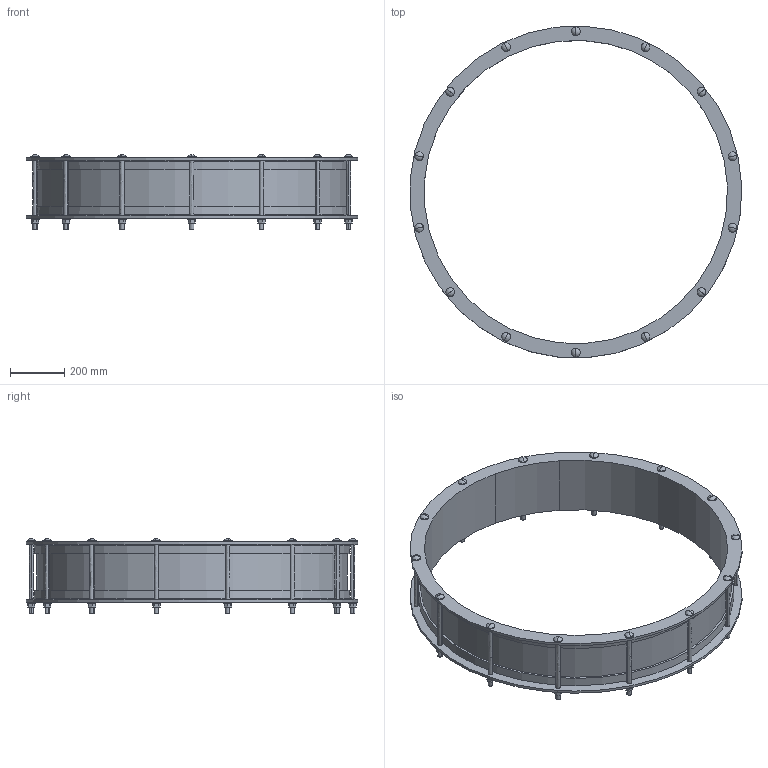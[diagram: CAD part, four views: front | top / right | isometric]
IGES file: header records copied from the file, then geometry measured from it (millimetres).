
Start section:  PTC IGES file: VJC_1118.igs
Global section: file name: VJC_1118.igs; native system: Creo Parametric by PTC Inc.; preprocessor: 2016130; author: mfairey; organization: Unknown; date: 20181206.143227; units: millimetre
Bounding box: 1224.6 x 1224.81 x 276 mm (x, y, z)
Surface area: 2436648.4 mm2 (no closed solid volume)
Topology: 0 solids, 0 shells, 286 faces, 1340 edges, 1312 vertices
Faces by surface type: revolution 156, bspline 130
